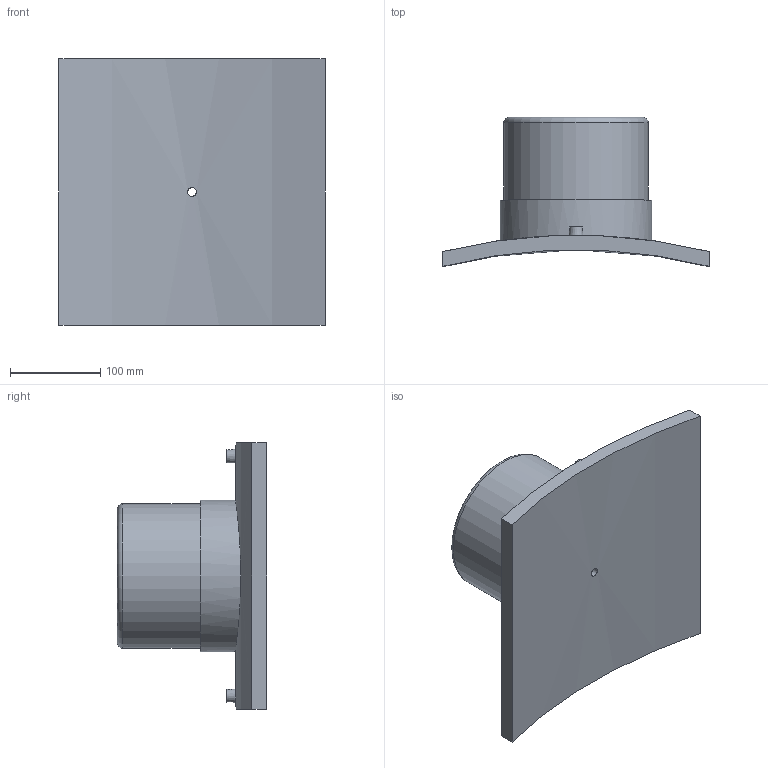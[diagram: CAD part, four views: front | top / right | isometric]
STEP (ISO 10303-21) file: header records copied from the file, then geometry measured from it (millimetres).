
FILE_DESCRIPTION(/* description */ ('PLASSON BRANCH SADDLE 1200x160'),/* implementation_level */ '2;1');
FILE_NAME(/* name */ 'C:\Dropbox\99-16-3568-Processing\ElectroFusion Fittings\495803\4958031200160T.ipt.stp',/* time_stamp */ '2021-02-25T09:43:34+02:00',/* author */ ('KIM'),/* organization */ (''),/* preprocessor_version */ 'ST-DEVELOPER v17.2',/* originating_system */ 'Autodesk Inventor 2019',/* authorisation */ '');
FILE_SCHEMA (('AUTOMOTIVE_DESIGN { 1 0 10303 214 3 1 1 }'));
Length unit declared in the file: millimetre
Products named in the file (1): 4958031200160T
Bounding box: 295 x 165.41 x 295 mm (x, y, z)
Volume: 2458426.2 mm3; surface area: 321993 mm2
Topology: 1 solids, 1 shells, 29 faces, 60 edges, 43 vertices
Faces by surface type: plane 13, cylinder 12, torus 2, cone 2
Full cylindrical faces by diameter (mm): 4 x2, 9.6 x1, 10 x2, 16 x1, 128 x1, 160 x1, 168 x1
Entity records: 1086 total; most frequent: CARTESIAN_POINT 400, DIRECTION 139, ORIENTED_EDGE 120, EDGE_CURVE 60, AXIS2_PLACEMENT_3D 60, VERTEX_POINT 43, EDGE_LOOP 41, CIRCLE 30
